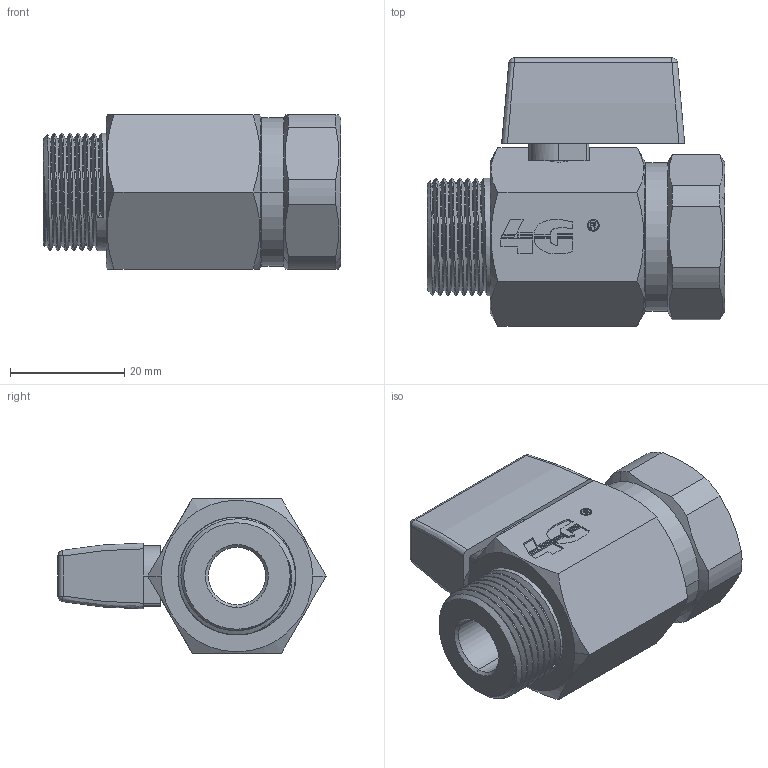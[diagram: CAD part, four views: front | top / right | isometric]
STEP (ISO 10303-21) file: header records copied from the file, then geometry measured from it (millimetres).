
FILE_DESCRIPTION((''),'2;1');
FILE_NAME('60600961210','2018-11-30T15:17:05',('UFFICIO TECNICO'),('CDM Tecnoconsulting'),'CREO PARAMETRIC BY PTC INC, 2018050','CREO PARAMETRIC BY PTC INC, 2018050','');
FILE_SCHEMA(('CONFIG_CONTROL_DESIGN','SHAPE_APPEARANCE_LAYERS_GROUPS'));
Length unit declared in the file: millimetre
Products named in the file (1): 60600961210
Bounding box: 52 x 46.88 x 27 mm (x, y, z)
Surface area: 11667.6 mm2 (no closed solid volume)
Topology: 0 solids, 11 shells, 312 faces, 942 edges, 616 vertices
Faces by surface type: plane 110, cylinder 75, extrusion 39, cone 32, bspline 28, torus 16, sphere 12
Entity records: 20864 total; most frequent: CARTESIAN_POINT 9509, ORIENTED_EDGE 1658, DIRECTION 1409, PRESENTATION_STYLE_ASSIGNMENT 1022, STYLED_ITEM 952, CURVE_STYLE 942, EDGE_CURVE 942, VERTEX_POINT 616
